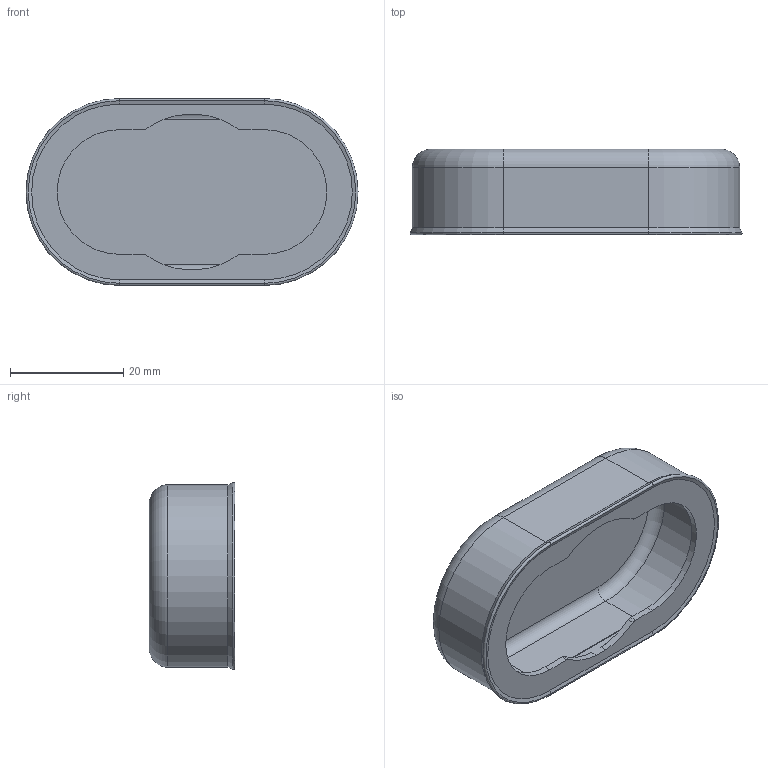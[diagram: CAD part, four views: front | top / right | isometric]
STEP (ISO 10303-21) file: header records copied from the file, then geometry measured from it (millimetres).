
FILE_DESCRIPTION (( 'STEP AP214' ), '1' );
FILE_NAME ('ZF_STEP_VE_CA1D1_A13.STEP', '2013-07-16T14:39:30', ( 'Pizzato Elettrica' ), ( '' ), 'SwSTEP 2.0', 'SolidWorks 2011', '' );
FILE_SCHEMA (( 'AUTOMOTIVE_DESIGN' ));
Length unit declared in the file: millimetre
Products named in the file (1): ZF_STEP_VE_CA1D1_A13
Bounding box: 58.6 x 15.1 x 33 mm (x, y, z)
Volume: 5339.7 mm3; surface area: 8082 mm2
Topology: 1 solids, 1 shells, 57 faces, 135 edges, 82 vertices
Faces by surface type: cylinder 25, plane 20, torus 8, cone 4
Entity records: 1673 total; most frequent: DIRECTION 313, CARTESIAN_POINT 275, ORIENTED_EDGE 270, EDGE_CURVE 135, AXIS2_PLACEMENT_3D 120, VERTEX_POINT 82, VECTOR 73, LINE 73
